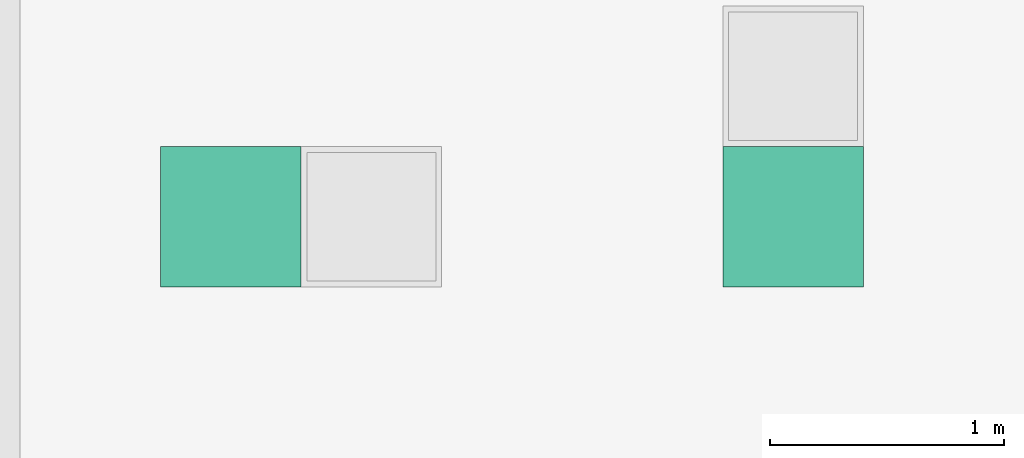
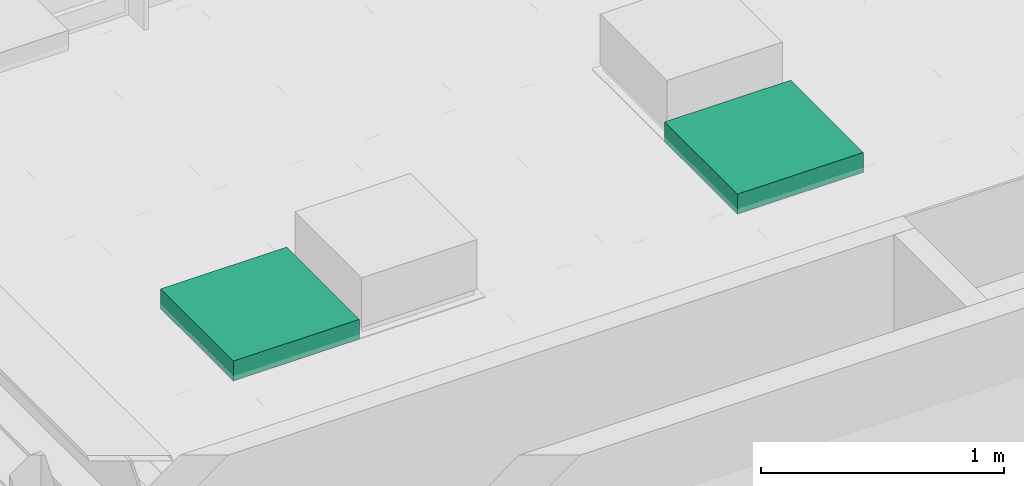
# One storey, part 275 of 347: 2 flow terminals.
"""IFC2X3 building model written with IfcOpenShell, lengths in millimetres."""

from ifc_helpers import new_model, entity, si_unit, converted_unit, derived_unit, money_unit, direction, frame, origin_with_axes, place, context, subcontext, project, spatial, open_shell, faceted_brep, surface_model, source, transform, mapped, type_object, type_shapes, element, save


model = new_model("IFC2X3")

# Units and contexts
model_context = context("Model", 3, precision=0.01, world=origin_with_axes(), true_north=direction((0.0, 1.0)))
plan_context = context("Plan", 3, precision=0.01, world=origin_with_axes(), true_north=direction((0.0, 1.0)))
body_context = subcontext(model_context, "Body", "Model", "MODEL_VIEW")
ifc_project = project(units=[si_unit("LENGTHUNIT", "METRE", prefix="MILLI"), si_unit("AREAUNIT", "SQUARE_METRE"), si_unit("VOLUMEUNIT", "CUBIC_METRE"), converted_unit("PLANEANGLEUNIT", "DEGREE", entity("IfcPlaneAngleMeasure", 0.0174532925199), si_unit("PLANEANGLEUNIT", "RADIAN"), dimensions=[0, 0, 0, 0, 0, 0, 0]), money_unit("EUR"), converted_unit("TIMEUNIT", "Year", entity("IfcTimeMeasure", 31556926.0), si_unit("TIMEUNIT", "SECOND"), dimensions=[0, 0, 1, 0, 0, 0, 0]), si_unit("MASSUNIT", "GRAM", prefix="KILO"), si_unit("THERMODYNAMICTEMPERATUREUNIT", "DEGREE_CELSIUS"), si_unit("LUMINOUSINTENSITYUNIT", "LUMEN"), si_unit("ENERGYUNIT", "JOULE", prefix="MEGA"), derived_unit("THERMALCONDUCTANCEUNIT", [(si_unit("POWERUNIT", "WATT"), 1), (si_unit("LENGTHUNIT", "METRE"), -1), (si_unit("THERMODYNAMICTEMPERATUREUNIT", "KELVIN"), -1)]), derived_unit("SPECIFICHEATCAPACITYUNIT", [(si_unit("ENERGYUNIT", "JOULE"), 1), (si_unit("MASSUNIT", "GRAM", prefix="KILO"), -1), (si_unit("THERMODYNAMICTEMPERATUREUNIT", "KELVIN"), -1)]), derived_unit("MASSDENSITYUNIT", [(si_unit("MASSUNIT", "GRAM", prefix="KILO"), 1), (si_unit("VOLUMEUNIT", "CUBIC_METRE"), -1)])], contexts=[model_context, plan_context])

# Site, building, storey
site_placement = place(None, origin_with_axes())
site = spatial("IfcSite", under=ifc_project, at=site_placement, Name="Site", CompositionType="ELEMENT")
building_placement = place(site_placement, origin_with_axes())
building = spatial("IfcBuilding", under=site, at=building_placement, Name="Naam gebouw", CompositionType="ELEMENT")
storey_placement = place(building_placement, origin_with_axes())
storey = spatial("IfcBuildingStorey", under=building, at=storey_placement, Name="begane grond", CompositionType="ELEMENT", Elevation=0.0)

# Flow terminals
lamp_type = type_object("IfcLampType", Name="TL plafond 25", PredefinedType="NOTDEFINED")
shared_shape = source(origin_with_axes(), body_context, "Body", "SurfaceModel", [
    faceted_brep([(0.0, 0.0, -100.0), (600.0, 0.0, -100.0), (600.0, 0.0, 0.0), (0.0, 0.0, 0.0), (0.0, 600.0, -100.0), (600.0, 600.0, -100.0), (40.0, 40.0, -100.0), (560.0, 40.0, -100.0), (560.0, 560.0, -100.0), (40.0, 560.0, -100.0), (600.0, 600.0, 0.0), (0.0, 600.0, 0.0), (40.0, 40.0, 0.0), (40.0, 560.0, 0.0), (560.0, 560.0, 0.0), (560.0, 40.0, 0.0)], [[[0, 1, 2, 3]], [[0, 4, 5, 1], [6, 7, 8, 9]], [[1, 5, 10, 2]], [[3, 2, 10, 11], [12, 13, 14, 15]], [[4, 0, 3, 11]], [[5, 4, 11, 10]], [[7, 6, 12, 15]], [[8, 7, 15, 14]], [[9, 8, 14, 13]], [[6, 9, 13, 12]]]),
    faceted_brep([(40.0, 40.0, -16.3333333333), (560.0, 40.0, -16.3333333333), (560.0, 40.0, 0.0), (40.0, 40.0, 0.0), (40.0, 560.0, -16.3333333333), (560.0, 560.0, -16.3333333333), (560.0, 560.0, 0.0), (40.0, 560.0, 0.0)], [[[0, 1, 2, 3]], [[0, 4, 5, 1]], [[1, 5, 6, 2]], [[3, 2, 6, 7]], [[4, 0, 3, 7]], [[5, 4, 7, 6]]]),
    surface_model("IfcShellBasedSurfaceModel", [(559.0, 41.0, -100.0), (40.0, 41.0, -100.0), (40.0, 559.0, -100.0), (559.0, 559.0, -100.0)], [open_shell([[[0, 1, 2, 3]]])]),
    faceted_brep([(40.0, 40.0, -100.0), (560.0, 40.0, -100.0), (560.0, 40.0, -60.0), (40.0, 40.0, -60.0), (40.0, 560.0, -100.0), (560.0, 560.0, -100.0), (41.0, 41.0, -100.0), (559.0, 41.0, -100.0), (559.0, 559.0, -100.0), (41.0, 559.0, -100.0), (560.0, 560.0, -60.0), (40.0, 560.0, -60.0), (41.0, 41.0, -60.0), (41.0, 559.0, -60.0), (559.0, 559.0, -60.0), (559.0, 41.0, -60.0)], [[[0, 1, 2, 3]], [[0, 4, 5, 1], [6, 7, 8, 9]], [[1, 5, 10, 2]], [[3, 2, 10, 11], [12, 13, 14, 15]], [[4, 0, 3, 11]], [[5, 4, 11, 10]], [[7, 6, 12, 15]], [[8, 7, 15, 14]], [[9, 8, 14, 13]], [[6, 9, 13, 12]]]),
    faceted_brep([(40.0, 144.0, -48.3333333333), (40.0, 149.740251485, -47.191526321), (560.0, 149.740251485, -47.191526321), (560.0, 144.0, -48.3333333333), (40.0, 138.259748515, -47.191526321), (40.0, 133.393398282, -43.9399350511), (40.0, 130.141807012, -39.0735848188), (40.0, 129.0, -33.3333333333), (40.0, 130.141807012, -27.5930818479), (40.0, 133.393398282, -22.7267316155), (40.0, 138.259748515, -19.4751403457), (40.0, 144.0, -18.3333333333), (40.0, 149.740251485, -19.4751403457), (40.0, 154.606601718, -22.7267316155), (40.0, 157.858192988, -27.5930818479), (40.0, 159.0, -33.3333333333), (40.0, 157.858192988, -39.0735848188), (40.0, 154.606601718, -43.9399350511), (40.0, 144.0, -46.3333333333), (40.0, 148.974884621, -45.343767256), (40.0, 153.192388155, -42.5257214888), (40.0, 156.010433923, -38.3082179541), (40.0, 157.0, -33.3333333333), (40.0, 156.010433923, -28.3584487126), (40.0, 153.192388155, -24.1409451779), (40.0, 148.974884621, -21.3228994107), (40.0, 144.0, -20.3333333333), (40.0, 139.025115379, -21.3228994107), (40.0, 134.807611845, -24.1409451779), (40.0, 131.989566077, -28.3584487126), (40.0, 131.0, -33.3333333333), (40.0, 131.989566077, -38.3082179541), (40.0, 134.807611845, -42.5257214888), (40.0, 139.025115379, -45.343767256), (560.0, 154.606601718, -43.9399350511), (560.0, 157.858192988, -39.0735848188), (560.0, 159.0, -33.3333333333), (560.0, 157.858192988, -27.5930818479), (560.0, 154.606601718, -22.7267316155), (560.0, 149.740251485, -19.4751403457), (560.0, 144.0, -18.3333333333), (560.0, 138.259748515, -19.4751403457), (560.0, 133.393398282, -22.7267316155), (560.0, 130.141807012, -27.5930818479), (560.0, 129.0, -33.3333333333), (560.0, 130.141807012, -39.0735848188), (560.0, 133.393398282, -43.9399350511), (560.0, 138.259748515, -47.191526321), (560.0, 144.0, -46.3333333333), (560.0, 139.025115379, -45.343767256), (560.0, 134.807611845, -42.5257214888), (560.0, 131.989566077, -38.3082179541), (560.0, 131.0, -33.3333333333), (560.0, 131.989566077, -28.3584487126), (560.0, 134.807611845, -24.1409451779), (560.0, 139.025115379, -21.3228994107), (560.0, 144.0, -20.3333333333), (560.0, 148.974884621, -21.3228994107), (560.0, 153.192388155, -24.1409451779), (560.0, 156.010433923, -28.3584487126), (560.0, 157.0, -33.3333333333), (560.0, 156.010433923, -38.3082179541), (560.0, 153.192388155, -42.5257214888), (560.0, 148.974884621, -45.343767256)], [[[0, 1, 2, 3]], [[0, 4, 5, 6, 7, 8, 9, 10, 11, 12, 13, 14, 15, 16, 17, 1], [18, 19, 20, 21, 22, 23, 24, 25, 26, 27, 28, 29, 30, 31, 32, 33]], [[1, 17, 34, 2]], [[3, 2, 34, 35, 36, 37, 38, 39, 40, 41, 42, 43, 44, 45, 46, 47], [48, 49, 50, 51, 52, 53, 54, 55, 56, 57, 58, 59, 60, 61, 62, 63]], [[4, 0, 3, 47]], [[5, 4, 47, 46]], [[6, 5, 46, 45]], [[7, 6, 45, 44]], [[8, 7, 44, 43]], [[9, 8, 43, 42]], [[10, 9, 42, 41]], [[11, 10, 41, 40]], [[12, 11, 40, 39]], [[13, 12, 39, 38]], [[14, 13, 38, 37]], [[15, 14, 37, 36]], [[16, 15, 36, 35]], [[17, 16, 35, 34]], [[19, 18, 48, 63]], [[20, 19, 63, 62]], [[21, 20, 62, 61]], [[22, 21, 61, 60]], [[23, 22, 60, 59]], [[24, 23, 59, 58]], [[25, 24, 58, 57]], [[26, 25, 57, 56]], [[27, 26, 56, 55]], [[28, 27, 55, 54]], [[29, 28, 54, 53]], [[30, 29, 53, 52]], [[31, 30, 52, 51]], [[32, 31, 51, 50]], [[33, 32, 50, 49]], [[18, 33, 49, 48]]]),
    faceted_brep([(40.0, 248.0, -48.3333333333), (40.0, 253.740251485, -47.191526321), (560.0, 253.740251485, -47.191526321), (560.0, 248.0, -48.3333333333), (40.0, 242.259748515, -47.191526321), (40.0, 237.393398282, -43.9399350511), (40.0, 234.141807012, -39.0735848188), (40.0, 233.0, -33.3333333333), (40.0, 234.141807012, -27.5930818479), (40.0, 237.393398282, -22.7267316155), (40.0, 242.259748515, -19.4751403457), (40.0, 248.0, -18.3333333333), (40.0, 253.740251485, -19.4751403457), (40.0, 258.606601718, -22.7267316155), (40.0, 261.858192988, -27.5930818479), (40.0, 263.0, -33.3333333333), (40.0, 261.858192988, -39.0735848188), (40.0, 258.606601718, -43.9399350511), (40.0, 248.0, -46.3333333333), (40.0, 252.974884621, -45.343767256), (40.0, 257.192388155, -42.5257214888), (40.0, 260.010433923, -38.3082179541), (40.0, 261.0, -33.3333333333), (40.0, 260.010433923, -28.3584487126), (40.0, 257.192388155, -24.1409451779), (40.0, 252.974884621, -21.3228994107), (40.0, 248.0, -20.3333333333), (40.0, 243.025115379, -21.3228994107), (40.0, 238.807611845, -24.1409451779), (40.0, 235.989566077, -28.3584487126), (40.0, 235.0, -33.3333333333), (40.0, 235.989566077, -38.3082179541), (40.0, 238.807611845, -42.5257214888), (40.0, 243.025115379, -45.343767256), (560.0, 258.606601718, -43.9399350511), (560.0, 261.858192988, -39.0735848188), (560.0, 263.0, -33.3333333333), (560.0, 261.858192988, -27.5930818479), (560.0, 258.606601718, -22.7267316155), (560.0, 253.740251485, -19.4751403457), (560.0, 248.0, -18.3333333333), (560.0, 242.259748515, -19.4751403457), (560.0, 237.393398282, -22.7267316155), (560.0, 234.141807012, -27.5930818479), (560.0, 233.0, -33.3333333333), (560.0, 234.141807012, -39.0735848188), (560.0, 237.393398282, -43.9399350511), (560.0, 242.259748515, -47.191526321), (560.0, 248.0, -46.3333333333), (560.0, 243.025115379, -45.343767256), (560.0, 238.807611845, -42.5257214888), (560.0, 235.989566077, -38.3082179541), (560.0, 235.0, -33.3333333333), (560.0, 235.989566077, -28.3584487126), (560.0, 238.807611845, -24.1409451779), (560.0, 243.025115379, -21.3228994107), (560.0, 248.0, -20.3333333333), (560.0, 252.974884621, -21.3228994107), (560.0, 257.192388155, -24.1409451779), (560.0, 260.010433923, -28.3584487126), (560.0, 261.0, -33.3333333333), (560.0, 260.010433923, -38.3082179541), (560.0, 257.192388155, -42.5257214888), (560.0, 252.974884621, -45.343767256)], [[[0, 1, 2, 3]], [[0, 4, 5, 6, 7, 8, 9, 10, 11, 12, 13, 14, 15, 16, 17, 1], [18, 19, 20, 21, 22, 23, 24, 25, 26, 27, 28, 29, 30, 31, 32, 33]], [[1, 17, 34, 2]], [[3, 2, 34, 35, 36, 37, 38, 39, 40, 41, 42, 43, 44, 45, 46, 47], [48, 49, 50, 51, 52, 53, 54, 55, 56, 57, 58, 59, 60, 61, 62, 63]], [[4, 0, 3, 47]], [[5, 4, 47, 46]], [[6, 5, 46, 45]], [[7, 6, 45, 44]], [[8, 7, 44, 43]], [[9, 8, 43, 42]], [[10, 9, 42, 41]], [[11, 10, 41, 40]], [[12, 11, 40, 39]], [[13, 12, 39, 38]], [[14, 13, 38, 37]], [[15, 14, 37, 36]], [[16, 15, 36, 35]], [[17, 16, 35, 34]], [[19, 18, 48, 63]], [[20, 19, 63, 62]], [[21, 20, 62, 61]], [[22, 21, 61, 60]], [[23, 22, 60, 59]], [[24, 23, 59, 58]], [[25, 24, 58, 57]], [[26, 25, 57, 56]], [[27, 26, 56, 55]], [[28, 27, 55, 54]], [[29, 28, 54, 53]], [[30, 29, 53, 52]], [[31, 30, 52, 51]], [[32, 31, 51, 50]], [[33, 32, 50, 49]], [[18, 33, 49, 48]]]),
    faceted_brep([(40.0, 352.0, -48.3333333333), (40.0, 357.740251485, -47.191526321), (560.0, 357.740251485, -47.191526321), (560.0, 352.0, -48.3333333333), (40.0, 346.259748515, -47.191526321), (40.0, 341.393398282, -43.9399350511), (40.0, 338.141807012, -39.0735848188), (40.0, 337.0, -33.3333333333), (40.0, 338.141807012, -27.5930818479), (40.0, 341.393398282, -22.7267316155), (40.0, 346.259748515, -19.4751403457), (40.0, 352.0, -18.3333333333), (40.0, 357.740251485, -19.4751403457), (40.0, 362.606601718, -22.7267316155), (40.0, 365.858192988, -27.5930818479), (40.0, 367.0, -33.3333333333), (40.0, 365.858192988, -39.0735848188), (40.0, 362.606601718, -43.9399350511), (40.0, 352.0, -46.3333333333), (40.0, 356.974884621, -45.343767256), (40.0, 361.192388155, -42.5257214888), (40.0, 364.010433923, -38.3082179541), (40.0, 365.0, -33.3333333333), (40.0, 364.010433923, -28.3584487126), (40.0, 361.192388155, -24.1409451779), (40.0, 356.974884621, -21.3228994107), (40.0, 352.0, -20.3333333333), (40.0, 347.025115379, -21.3228994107), (40.0, 342.807611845, -24.1409451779), (40.0, 339.989566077, -28.3584487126), (40.0, 339.0, -33.3333333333), (40.0, 339.989566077, -38.3082179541), (40.0, 342.807611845, -42.5257214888), (40.0, 347.025115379, -45.343767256), (560.0, 362.606601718, -43.9399350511), (560.0, 365.858192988, -39.0735848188), (560.0, 367.0, -33.3333333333), (560.0, 365.858192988, -27.5930818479), (560.0, 362.606601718, -22.7267316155), (560.0, 357.740251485, -19.4751403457), (560.0, 352.0, -18.3333333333), (560.0, 346.259748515, -19.4751403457), (560.0, 341.393398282, -22.7267316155), (560.0, 338.141807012, -27.5930818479), (560.0, 337.0, -33.3333333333), (560.0, 338.141807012, -39.0735848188), (560.0, 341.393398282, -43.9399350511), (560.0, 346.259748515, -47.191526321), (560.0, 352.0, -46.3333333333), (560.0, 347.025115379, -45.343767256), (560.0, 342.807611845, -42.5257214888), (560.0, 339.989566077, -38.3082179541), (560.0, 339.0, -33.3333333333), (560.0, 339.989566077, -28.3584487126), (560.0, 342.807611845, -24.1409451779), (560.0, 347.025115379, -21.3228994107), (560.0, 352.0, -20.3333333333), (560.0, 356.974884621, -21.3228994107), (560.0, 361.192388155, -24.1409451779), (560.0, 364.010433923, -28.3584487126), (560.0, 365.0, -33.3333333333), (560.0, 364.010433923, -38.3082179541), (560.0, 361.192388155, -42.5257214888), (560.0, 356.974884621, -45.343767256)], [[[0, 1, 2, 3]], [[0, 4, 5, 6, 7, 8, 9, 10, 11, 12, 13, 14, 15, 16, 17, 1], [18, 19, 20, 21, 22, 23, 24, 25, 26, 27, 28, 29, 30, 31, 32, 33]], [[1, 17, 34, 2]], [[3, 2, 34, 35, 36, 37, 38, 39, 40, 41, 42, 43, 44, 45, 46, 47], [48, 49, 50, 51, 52, 53, 54, 55, 56, 57, 58, 59, 60, 61, 62, 63]], [[4, 0, 3, 47]], [[5, 4, 47, 46]], [[6, 5, 46, 45]], [[7, 6, 45, 44]], [[8, 7, 44, 43]], [[9, 8, 43, 42]], [[10, 9, 42, 41]], [[11, 10, 41, 40]], [[12, 11, 40, 39]], [[13, 12, 39, 38]], [[14, 13, 38, 37]], [[15, 14, 37, 36]], [[16, 15, 36, 35]], [[17, 16, 35, 34]], [[19, 18, 48, 63]], [[20, 19, 63, 62]], [[21, 20, 62, 61]], [[22, 21, 61, 60]], [[23, 22, 60, 59]], [[24, 23, 59, 58]], [[25, 24, 58, 57]], [[26, 25, 57, 56]], [[27, 26, 56, 55]], [[28, 27, 55, 54]], [[29, 28, 54, 53]], [[30, 29, 53, 52]], [[31, 30, 52, 51]], [[32, 31, 51, 50]], [[33, 32, 50, 49]], [[18, 33, 49, 48]]]),
    faceted_brep([(40.0, 456.0, -48.3333333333), (40.0, 461.740251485, -47.191526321), (560.0, 461.740251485, -47.191526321), (560.0, 456.0, -48.3333333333), (40.0, 450.259748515, -47.191526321), (40.0, 445.393398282, -43.9399350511), (40.0, 442.141807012, -39.0735848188), (40.0, 441.0, -33.3333333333), (40.0, 442.141807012, -27.5930818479), (40.0, 445.393398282, -22.7267316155), (40.0, 450.259748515, -19.4751403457), (40.0, 456.0, -18.3333333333), (40.0, 461.740251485, -19.4751403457), (40.0, 466.606601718, -22.7267316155), (40.0, 469.858192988, -27.5930818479), (40.0, 471.0, -33.3333333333), (40.0, 469.858192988, -39.0735848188), (40.0, 466.606601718, -43.9399350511), (40.0, 456.0, -46.3333333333), (40.0, 460.974884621, -45.343767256), (40.0, 465.192388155, -42.5257214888), (40.0, 468.010433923, -38.3082179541), (40.0, 469.0, -33.3333333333), (40.0, 468.010433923, -28.3584487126), (40.0, 465.192388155, -24.1409451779), (40.0, 460.974884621, -21.3228994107), (40.0, 456.0, -20.3333333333), (40.0, 451.025115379, -21.3228994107), (40.0, 446.807611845, -24.1409451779), (40.0, 443.989566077, -28.3584487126), (40.0, 443.0, -33.3333333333), (40.0, 443.989566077, -38.3082179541), (40.0, 446.807611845, -42.5257214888), (40.0, 451.025115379, -45.343767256), (560.0, 466.606601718, -43.9399350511), (560.0, 469.858192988, -39.0735848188), (560.0, 471.0, -33.3333333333), (560.0, 469.858192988, -27.5930818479), (560.0, 466.606601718, -22.7267316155), (560.0, 461.740251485, -19.4751403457), (560.0, 456.0, -18.3333333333), (560.0, 450.259748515, -19.4751403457), (560.0, 445.393398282, -22.7267316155), (560.0, 442.141807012, -27.5930818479), (560.0, 441.0, -33.3333333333), (560.0, 442.141807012, -39.0735848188), (560.0, 445.393398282, -43.9399350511), (560.0, 450.259748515, -47.191526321), (560.0, 456.0, -46.3333333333), (560.0, 451.025115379, -45.343767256), (560.0, 446.807611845, -42.5257214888), (560.0, 443.989566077, -38.3082179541), (560.0, 443.0, -33.3333333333), (560.0, 443.989566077, -28.3584487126), (560.0, 446.807611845, -24.1409451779), (560.0, 451.025115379, -21.3228994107), (560.0, 456.0, -20.3333333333), (560.0, 460.974884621, -21.3228994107), (560.0, 465.192388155, -24.1409451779), (560.0, 468.010433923, -28.3584487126), (560.0, 469.0, -33.3333333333), (560.0, 468.010433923, -38.3082179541), (560.0, 465.192388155, -42.5257214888), (560.0, 460.974884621, -45.343767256)], [[[0, 1, 2, 3]], [[0, 4, 5, 6, 7, 8, 9, 10, 11, 12, 13, 14, 15, 16, 17, 1], [18, 19, 20, 21, 22, 23, 24, 25, 26, 27, 28, 29, 30, 31, 32, 33]], [[1, 17, 34, 2]], [[3, 2, 34, 35, 36, 37, 38, 39, 40, 41, 42, 43, 44, 45, 46, 47], [48, 49, 50, 51, 52, 53, 54, 55, 56, 57, 58, 59, 60, 61, 62, 63]], [[4, 0, 3, 47]], [[5, 4, 47, 46]], [[6, 5, 46, 45]], [[7, 6, 45, 44]], [[8, 7, 44, 43]], [[9, 8, 43, 42]], [[10, 9, 42, 41]], [[11, 10, 41, 40]], [[12, 11, 40, 39]], [[13, 12, 39, 38]], [[14, 13, 38, 37]], [[15, 14, 37, 36]], [[16, 15, 36, 35]], [[17, 16, 35, 34]], [[19, 18, 48, 63]], [[20, 19, 63, 62]], [[21, 20, 62, 61]], [[22, 21, 61, 60]], [[23, 22, 60, 59]], [[24, 23, 59, 58]], [[25, 24, 58, 57]], [[26, 25, 57, 56]], [[27, 26, 56, 55]], [[28, 27, 55, 54]], [[29, 28, 54, 53]], [[30, 29, 53, 52]], [[31, 30, 52, 51]], [[32, 31, 51, 50]], [[33, 32, 50, 49]], [[18, 33, 49, 48]]]),
])
type_shapes(lamp_type, [shared_shape])
for number, where, z_axis, x_axis, name in (
    (1, (27875.0000157, 40590.5, 3295.0), (0.0, 0.0, 1.0), (1.0, 0.0, 0.0), "63_Lamp-x"),
    (2, (25475.0000157, 40590.5011494, 3295.0), (0.0, 0.0, 1.0), (1.0, 0.0, 0.0), "63_Lamp-x"),
):
    element("IfcFlowTerminal", number, at=place(storey_placement, frame(where, z_axis=z_axis, x_axis=x_axis)), inside=storey, type_object=lamp_type, Name=name, ObjectType="Lamp", context=body_context, shape_type="MappedRepresentation", body=[
        mapped(shared_shape, transform((0.0, 0.0, 0.0))),
    ])

save(model, "model.ifc")
